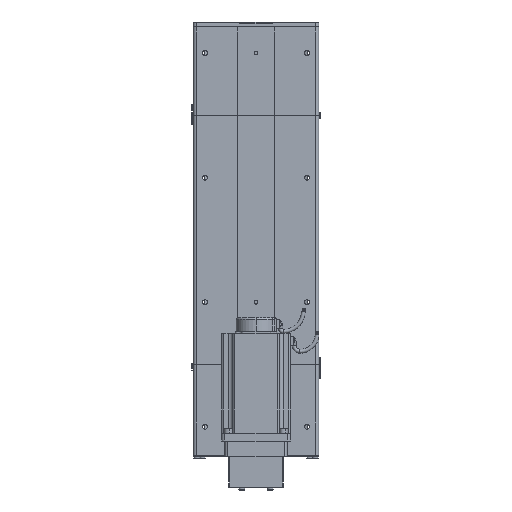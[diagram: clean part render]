
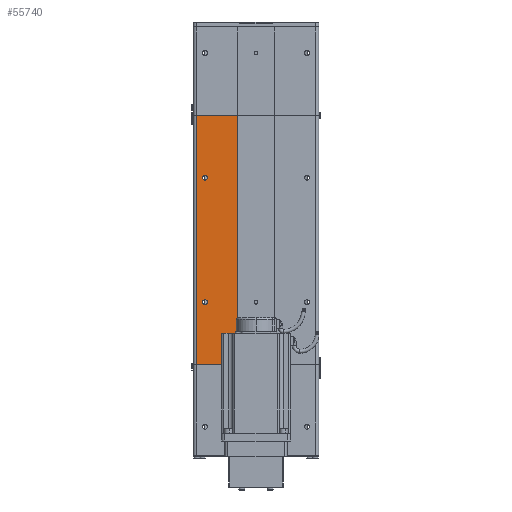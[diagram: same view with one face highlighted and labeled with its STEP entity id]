
A CAD part, front view. The second image highlights one B-rep face of the part: STEP entity #55740.
In plain terms, the highlighted planar face has unit normal (0, -1, 0).
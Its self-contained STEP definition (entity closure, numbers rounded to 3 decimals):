
#17185 = FACE_BOUND ( 'NONE', #55570, .T. ) ;
#17187 = AXIS2_PLACEMENT_3D ( 'NONE', #17197, #17267, #17266 ) ;
#17189 = PLANE ( 'NONE',  #17268 ) ;
#17193 = CIRCLE ( 'NONE', #17187, 4. ) ;
#17197 = CARTESIAN_POINT ( 'NONE',  ( -82., -34.5, 300. ) ) ;
#17207 = DIRECTION ( 'NONE',  ( 1., 0., 0. ) ) ;
#17208 = VECTOR ( 'NONE', #17207, 1000. ) ;
#17209 = CARTESIAN_POINT ( 'NONE',  ( -96., -34.5, 400. ) ) ;
#17210 = LINE ( 'NONE', #17209, #17208 ) ;
#17215 = DIRECTION ( 'NONE',  ( 0., 0., 1. ) ) ;
#17218 = CARTESIAN_POINT ( 'NONE',  ( -30., -34.5, 0. ) ) ;
#17219 = LINE ( 'NONE', #17218, #17309 ) ;
#17221 = CARTESIAN_POINT ( 'NONE',  ( -30., -34.5, 400. ) ) ;
#17222 = DIRECTION ( 'NONE',  ( 1., 0., 0. ) ) ;
#17223 = DIRECTION ( 'NONE',  ( 0., -1., 0. ) ) ;
#17224 = CARTESIAN_POINT ( 'NONE',  ( -82., -34.5, 100. ) ) ;
#17225 = AXIS2_PLACEMENT_3D ( 'NONE', #17224, #17223, #17222 ) ;
#17226 = CIRCLE ( 'NONE', #17225, 4. ) ;
#17228 = CARTESIAN_POINT ( 'NONE',  ( -96., -34.5, 0. ) ) ;
#17229 = LINE ( 'NONE', #17228, #17351 ) ;
#17251 = FACE_BOUND ( 'NONE', #55741, .T. ) ;
#17266 = DIRECTION ( 'NONE',  ( 1., 0., 0. ) ) ;
#17267 = DIRECTION ( 'NONE',  ( 0., -1., 0. ) ) ;
#17268 = AXIS2_PLACEMENT_3D ( 'NONE', #17287, #17286, #17285 ) ;
#17275 = DIRECTION ( 'NONE',  ( 0., 0., -1. ) ) ;
#17276 = VECTOR ( 'NONE', #17275, 1000. ) ;
#17278 = CARTESIAN_POINT ( 'NONE',  ( -96., -34.5, 400. ) ) ;
#17279 = LINE ( 'NONE', #17278, #17276 ) ;
#17285 = DIRECTION ( 'NONE',  ( -1., 0., 0. ) ) ;
#17286 = DIRECTION ( 'NONE',  ( 0., 1., 0. ) ) ;
#17287 = CARTESIAN_POINT ( 'NONE',  ( -96., -34.5, 400. ) ) ;
#17302 = CARTESIAN_POINT ( 'NONE',  ( -96., -34.5, 400. ) ) ;
#17304 = FACE_OUTER_BOUND ( 'NONE', #55641, .T. ) ;
#17309 = VECTOR ( 'NONE', #17215, 1000. ) ;
#17344 = CARTESIAN_POINT ( 'NONE',  ( -96., -34.5, 0. ) ) ;
#17350 = DIRECTION ( 'NONE',  ( 1., 0., 0. ) ) ;
#17351 = VECTOR ( 'NONE', #17350, 1000. ) ;
#17607 = CARTESIAN_POINT ( 'NONE',  ( -30., -34.5, 0. ) ) ;
#55053 = EDGE_CURVE ( 'NONE', #55372, #55098, #73487, .T. ) ;
#55098 = VERTEX_POINT ( 'NONE', #73271 ) ;
#55313 = VERTEX_POINT ( 'NONE', #73598 ) ;
#55329 = VERTEX_POINT ( 'NONE', #73673 ) ;
#55347 = EDGE_CURVE ( 'NONE', #55329, #55313, #73987, .T. ) ;
#55372 = VERTEX_POINT ( 'NONE', #73914 ) ;
#55570 = EDGE_LOOP ( 'NONE', ( #55574, #55704 ) ) ;
#55574 = ORIENTED_EDGE ( 'NONE', *, *, #55633, .F. ) ;
#55628 = ORIENTED_EDGE ( 'NONE', *, *, #55053, .F. ) ;
#55629 = ORIENTED_EDGE ( 'NONE', *, *, #55737, .F. ) ;
#55631 = VERTEX_POINT ( 'NONE', #17344 ) ;
#55632 = ORIENTED_EDGE ( 'NONE', *, *, #55634, .T. ) ;
#55633 = EDGE_CURVE ( 'NONE', #55313, #55329, #17226, .T. ) ;
#55634 = EDGE_CURVE ( 'NONE', #55631, #55757, #17229, .T. ) ;
#55638 = ORIENTED_EDGE ( 'NONE', *, *, #55714, .F. ) ;
#55641 = EDGE_LOOP ( 'NONE', ( #55632, #55712, #55638, #55753 ) ) ;
#55644 = VERTEX_POINT ( 'NONE', #17221 ) ;
#55704 = ORIENTED_EDGE ( 'NONE', *, *, #55347, .F. ) ;
#55706 = VERTEX_POINT ( 'NONE', #17302 ) ;
#55707 = EDGE_CURVE ( 'NONE', #55757, #55644, #17219, .T. ) ;
#55712 = ORIENTED_EDGE ( 'NONE', *, *, #55707, .T. ) ;
#55714 = EDGE_CURVE ( 'NONE', #55706, #55644, #17210, .T. ) ;
#55737 = EDGE_CURVE ( 'NONE', #55098, #55372, #17193, .T. ) ;
#55740 = ADVANCED_FACE ( 'NONE', ( #17251, #17185, #17304 ), #17189, .F. ) ;
#55741 = EDGE_LOOP ( 'NONE', ( #55629, #55628 ) ) ;
#55749 = EDGE_CURVE ( 'NONE', #55706, #55631, #17279, .T. ) ;
#55753 = ORIENTED_EDGE ( 'NONE', *, *, #55749, .T. ) ;
#55757 = VERTEX_POINT ( 'NONE', #17607 ) ;
#73271 = CARTESIAN_POINT ( 'NONE',  ( -78., -34.5, 300. ) ) ;
#73373 = DIRECTION ( 'NONE',  ( 1., 0., 0. ) ) ;
#73374 = DIRECTION ( 'NONE',  ( 0., -1., 0. ) ) ;
#73375 = CARTESIAN_POINT ( 'NONE',  ( -82., -34.5, 300. ) ) ;
#73376 = AXIS2_PLACEMENT_3D ( 'NONE', #73375, #73374, #73373 ) ;
#73487 = CIRCLE ( 'NONE', #73376, 4. ) ;
#73598 = CARTESIAN_POINT ( 'NONE',  ( -78., -34.5, 100. ) ) ;
#73673 = CARTESIAN_POINT ( 'NONE',  ( -86., -34.5, 100. ) ) ;
#73792 = DIRECTION ( 'NONE',  ( 1., 0., 0. ) ) ;
#73793 = DIRECTION ( 'NONE',  ( 0., -1., 0. ) ) ;
#73813 = CARTESIAN_POINT ( 'NONE',  ( -82., -34.5, 100. ) ) ;
#73862 = AXIS2_PLACEMENT_3D ( 'NONE', #73813, #73793, #73792 ) ;
#73914 = CARTESIAN_POINT ( 'NONE',  ( -86., -34.5, 300. ) ) ;
#73987 = CIRCLE ( 'NONE', #73862, 4. ) ;
